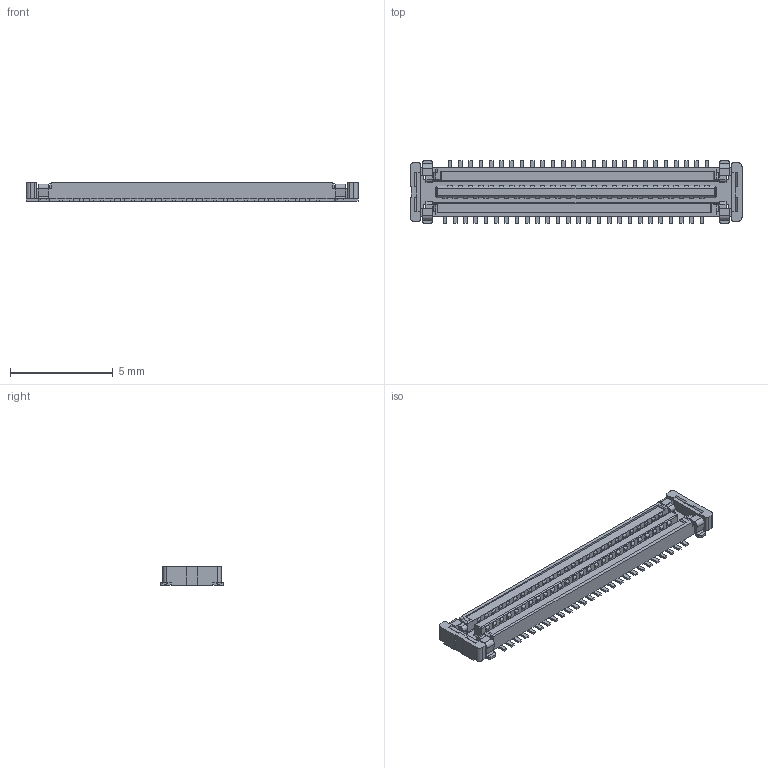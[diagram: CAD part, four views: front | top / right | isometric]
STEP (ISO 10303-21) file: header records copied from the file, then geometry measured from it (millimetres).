
FILE_DESCRIPTION(('Creo Elements/Direct Modeling STEP Export'),'2;1');
FILE_NAME('P3C164_XSLS00-52.stp','2022-02-04T15:57:12',(''),(''),'Creo Elements/Direct Modeling STEP processor for AP214 (Solid Model)','Creo Elements/Direct Modeling 20.2 28-Feb-2019 (C) Parametric Technology GmbH','');
FILE_SCHEMA(('AUTOMOTIVE_DESIGN { 1 0 10303 214 1 1 1 1 }'));
Length unit declared in the file: millimetre
Products named in the file (2): P3C164_XSLS00-52
Assembly tree (1 placements, depth 2):
  P3C164_XSLS00-52
    P3C164_XSLS00-52
Bounding box: 16.15 x 3.05 x 0.88 mm (x, y, z)
Volume: 25.5 mm3; surface area: 170.1 mm2
Topology: 1 solids, 1 shells, 1014 faces, 2634 edges, 1707 vertices
Faces by surface type: plane 750, cylinder 256, cone 4, sphere 4
Entity records: 30719 total; most frequent: CARTESIAN_POINT 5353, ORIENTED_EDGE 5260, DIRECTION 5182, EDGE_CURVE 2630, VECTOR 2110, LINE 2110, VERTEX_POINT 1707, AXIS2_PLACEMENT_3D 1536
